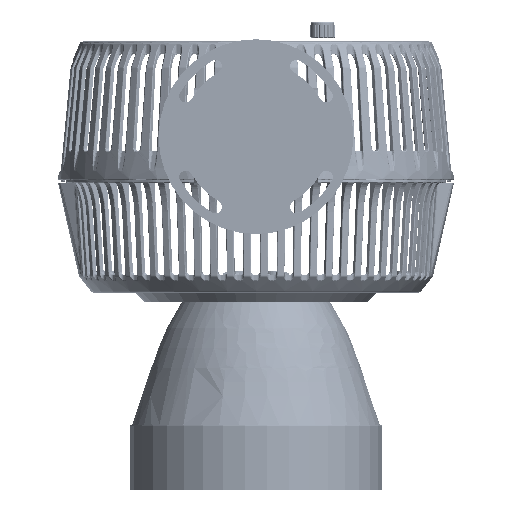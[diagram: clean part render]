
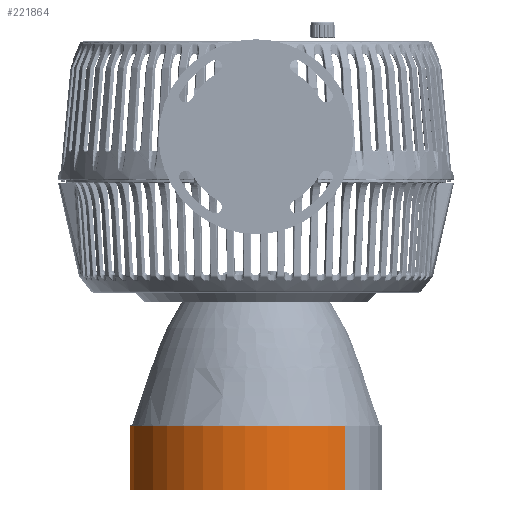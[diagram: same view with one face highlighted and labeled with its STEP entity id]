
A CAD part, left-side view. The second image highlights one B-rep face of the part: STEP entity #221864.
In plain terms, the highlighted cylindrical face has radius 77.7 mm (diameter 155.4 mm), a partial arc.
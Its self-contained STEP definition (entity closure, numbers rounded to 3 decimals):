
#4022 = LINE ( 'NONE', #92247, #26106 ) ;
#21719 = VERTEX_POINT ( 'NONE', #271704 ) ;
#23062 = ORIENTED_EDGE ( 'NONE', *, *, #121573, .T. ) ;
#26106 = VECTOR ( 'NONE', #179021, 1000. ) ;
#27369 = CIRCLE ( 'NONE', #235037, 77.7 ) ;
#51647 = AXIS2_PLACEMENT_3D ( 'NONE', #101331, #160794, #188105 ) ;
#65267 = VERTEX_POINT ( 'NONE', #245526 ) ;
#70127 = LINE ( 'NONE', #181464, #219216 ) ;
#80473 = CIRCLE ( 'NONE', #242170, 77.7 ) ;
#82813 = CARTESIAN_POINT ( 'NONE',  ( 0., 123., 0. ) ) ;
#92247 = CARTESIAN_POINT ( 'NONE',  ( 0., 84.2, -77.7 ) ) ;
#94650 = CARTESIAN_POINT ( 'NONE',  ( 0., 83.3, -77.7 ) ) ;
#98513 = CYLINDRICAL_SURFACE ( 'NONE', #51647, 77.7 ) ;
#99923 = FACE_OUTER_BOUND ( 'NONE', #249325, .T. ) ;
#101331 = CARTESIAN_POINT ( 'NONE',  ( 0., 84.2, 0. ) ) ;
#119231 = DIRECTION ( 'NONE',  ( 0., -1., 0. ) ) ;
#121573 = EDGE_CURVE ( 'NONE', #21719, #259229, #27369, .T. ) ;
#124861 = CARTESIAN_POINT ( 'NONE',  ( 0., 123., 77.7 ) ) ;
#130499 = DIRECTION ( 'NONE',  ( 0., 0., 1. ) ) ;
#152188 = DIRECTION ( 'NONE',  ( 0., 1., 0. ) ) ;
#160794 = DIRECTION ( 'NONE',  ( 0., -1., 0. ) ) ;
#168765 = ORIENTED_EDGE ( 'NONE', *, *, #178455, .F. ) ;
#178455 = EDGE_CURVE ( 'NONE', #65267, #259229, #4022, .T. ) ;
#179021 = DIRECTION ( 'NONE',  ( 0., -1., 0. ) ) ;
#181464 = CARTESIAN_POINT ( 'NONE',  ( 0., 84.2, 77.7 ) ) ;
#182407 = ORIENTED_EDGE ( 'NONE', *, *, #269005, .F. ) ;
#188105 = DIRECTION ( 'NONE',  ( 0., 0., -1. ) ) ;
#216388 = VERTEX_POINT ( 'NONE', #124861 ) ;
#218240 = EDGE_CURVE ( 'NONE', #216388, #21719, #70127, .T. ) ;
#219216 = VECTOR ( 'NONE', #119231, 1000. ) ;
#220695 = ORIENTED_EDGE ( 'NONE', *, *, #218240, .T. ) ;
#221864 = ADVANCED_FACE ( 'NONE', ( #99923 ), #98513, .T. ) ;
#226225 = DIRECTION ( 'NONE',  ( 0., 0., 1. ) ) ;
#235037 = AXIS2_PLACEMENT_3D ( 'NONE', #272500, #271085, #226225 ) ;
#242170 = AXIS2_PLACEMENT_3D ( 'NONE', #82813, #152188, #130499 ) ;
#245526 = CARTESIAN_POINT ( 'NONE',  ( 0., 123., -77.7 ) ) ;
#249325 = EDGE_LOOP ( 'NONE', ( #182407, #220695, #23062, #168765 ) ) ;
#259229 = VERTEX_POINT ( 'NONE', #94650 ) ;
#269005 = EDGE_CURVE ( 'NONE', #216388, #65267, #80473, .T. ) ;
#271085 = DIRECTION ( 'NONE',  ( 0., 1., 0. ) ) ;
#271704 = CARTESIAN_POINT ( 'NONE',  ( 0., 83.3, 77.7 ) ) ;
#272500 = CARTESIAN_POINT ( 'NONE',  ( 0., 83.3, 0. ) ) ;
